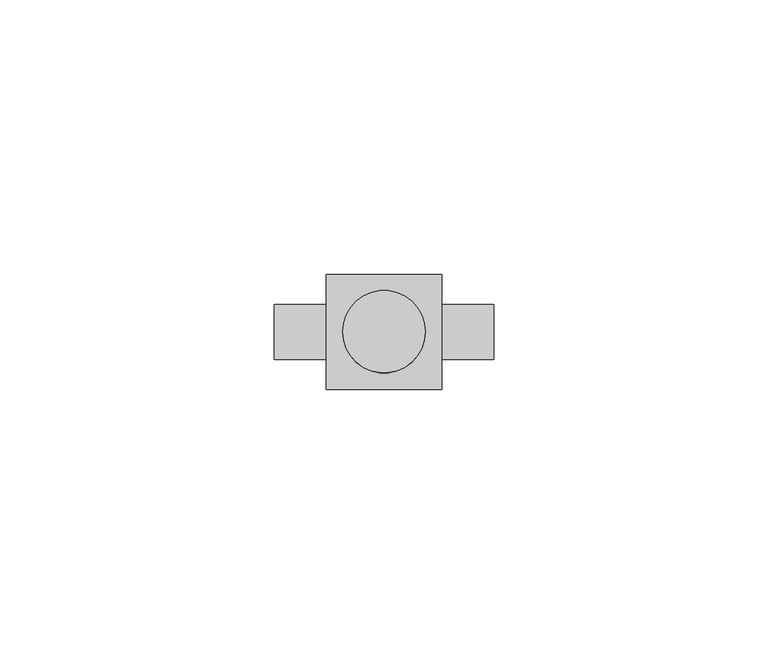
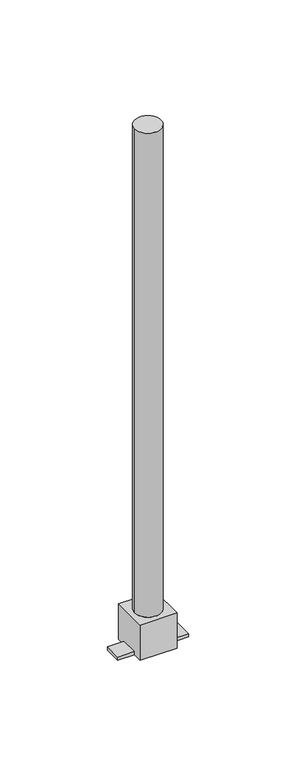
"""IFC4 building model written with IfcOpenShell, lengths in millimetres: pipe fitting geometry, KAN-therm Push kolano mosiężne z rurą Cu15 ze wspornikiem L=300 : KAN-therm Push kolano mosiężne z rurą Cu15 ze wspornikiem L=300."""

from ifc_helpers import new_model, si_unit, frame, origin, origin_with_axes, place, context, project, spatial, circle_curve, source, transform, mapped, element, save
from ifc_brep_helpers import plane_surface, cylinder_surface, advanced_brep


def pipe_fitting_484136c4(model_context):
    return source(origin(), model_context, "Body", "AdvancedBrep", [
        advanced_brep(
        [(10.5, -10.5, 10.5), (10.5, 10.5, 10.5), (-10.5, 10.5, 10.5), (-10.5, -10.5, 10.5), (7.5, 0.0, 10.5), (-7.5, 0.0, 10.5), (10.5, -10.5, -10.5), (-10.5, -10.5, -10.5), (-10.5, -5.0, -10.5), (-20.0, -5.0, -10.5), (-20.0, 5.0, -10.5), (-10.5, 5.0, -10.5), (-10.5, 10.5, -10.5), (10.5, 10.5, -10.5), (10.5, 5.0, -10.5), (20.0, 5.0, -10.5), (20.0, -5.0, -10.5), (10.5, -5.0, -10.5), (-7.5, 0.0, 300.0), (7.5, 0.0, 300.0), (10.5, -5.0, -8.5), (10.5, 5.0, -8.5), (-10.5, 5.0, -8.5), (-10.5, -5.0, -8.5), (20.0, -5.0, -8.5), (20.0, 5.0, -8.5), (-20.0, 5.0, -8.5), (-20.0, -5.0, -8.5)],
        [
            (0, 1),
            (1, 2),
            (2, 3),
            (3, 0),
            (4, 5, circle_curve(frame((0.0, 0.0, 10.5), z_axis=(0.0, 0.0, -1.0), x_axis=(1.0, 0.0, 0.0)), 7.5)),
            (5, 4, circle_curve(frame((0.0, 0.0, 10.5), z_axis=(0.0, 0.0, -1.0), x_axis=(1.0, 0.0, 0.0)), 7.5)),
            (6, 7),
            (7, 8),
            (8, 9),
            (9, 10),
            (10, 11),
            (11, 12),
            (12, 13),
            (13, 14),
            (14, 15),
            (15, 16),
            (16, 17),
            (17, 6),
            (18, 19, circle_curve(frame((0.0, 0.0, 300.0), z_axis=(0.0, 0.0, 1.0), x_axis=(1.0, 0.0, 0.0)), 7.5)),
            (19, 18, circle_curve(frame((0.0, 0.0, 300.0), z_axis=(0.0, 0.0, 1.0), x_axis=(1.0, 0.0, 0.0)), 7.5)),
            (18, 5),
            (4, 19),
            (0, 6),
            (17, 20),
            (20, 21),
            (21, 14),
            (13, 1),
            (12, 2),
            (11, 22),
            (22, 23),
            (23, 8),
            (7, 3),
            (24, 25),
            (25, 21),
            (20, 24),
            (26, 27),
            (27, 23),
            (22, 26),
            (27, 9),
            (16, 24),
            (15, 25),
            (10, 26),
        ],
        [
            plane_surface(frame((10.5, 10.5, 10.5), z_axis=(0.0, 0.0, 1.0), x_axis=(0.0, 1.0, 0.0))),
            plane_surface(frame((10.5, 10.5, -10.5), z_axis=(0.0, 0.0, -1.0), x_axis=(0.0, -1.0, 0.0))),
            plane_surface(frame((7.5, 0.0, 300.0), z_axis=(0.0, 0.0, 1.0), x_axis=(0.0, 1.0, 0.0))),
            cylinder_surface(origin_with_axes(), 7.5),
            plane_surface(frame((10.5, -10.5, 10.5), z_axis=(1.0, 0.0, 0.0), x_axis=(0.0, 0.0, -1.0))),
            plane_surface(frame((10.5, 10.5, 10.5), z_axis=(0.0, 1.0, 0.0), x_axis=(0.0, 0.0, -1.0))),
            plane_surface(frame((-10.5, 10.5, 10.5), z_axis=(-1.0, 0.0, 0.0), x_axis=(0.0, 0.0, -1.0))),
            plane_surface(frame((-10.5, -10.5, 10.5), z_axis=(0.0, -1.0, 0.0), x_axis=(0.0, 0.0, -1.0))),
            plane_surface(frame((2000.0, -5.0, -8.5), z_axis=(0.0, 0.0, 1.0), x_axis=(1.0, 0.0, 0.0))),
            plane_surface(frame((-20.0, -5.0, -8.5), z_axis=(0.0, -1.0, 0.0), x_axis=(0.0, 0.0, -1.0))),
            plane_surface(frame((20.0, -5.0, -8.5), z_axis=(1.0, 0.0, 0.0), x_axis=(0.0, 0.0, -1.0))),
            plane_surface(frame((20.0, 5.0, -8.5), z_axis=(0.0, 1.0, 0.0), x_axis=(0.0, 0.0, -1.0))),
            plane_surface(frame((-20.0, 5.0, -8.5), z_axis=(-1.0, 0.0, 0.0), x_axis=(0.0, 0.0, -1.0))),
        ],
        [
            (0, [[1, 2, 3, 4], [5, 6]]),
            (1, [[7, 8, 9, 10, 11, 12, 13, 14, 15, 16, 17, 18]]),
            (2, [[19, 20]]),
            (3, [[-19, 21, -5, 22]]),
            (3, [[-20, -22, -6, -21]]),
            (4, [[-1, 23, -18, 24, 25, 26, -14, 27]]),
            (5, [[-2, -27, -13, 28]]),
            (6, [[-3, -28, -12, 29, 30, 31, -8, 32]]),
            (7, [[-4, -32, -7, -23]]),
            (8, [[33, 34, -25, 35]]),
            (8, [[36, 37, -30, 38]]),
            (9, [[39, -9, -31, -37]]),
            (9, [[40, -35, -24, -17]]),
            (10, [[-33, -40, -16, 41]]),
            (11, [[-41, -15, -26, -34]]),
            (11, [[42, -38, -29, -11]]),
            (12, [[-36, -42, -10, -39]]),
        ],
    ),
    ])


if __name__ == "__main__":
    model = new_model("IFC4")
    model_context = context("Model", 3, world=origin())
    ifc_project = project(units=[si_unit("LENGTHUNIT", "METRE", prefix="MILLI")], contexts=[model_context])
    site = spatial("IfcSite", under=ifc_project)
    building = spatial("IfcBuilding", under=site)
    placement = place(None, origin())
    pipe_fitting_shape = pipe_fitting_484136c4(model_context)
    element("IfcPipeFitting", 1, ObjectType="KAN-therm Push kolano mosiężne z rurą Cu15 ze wspornikiem L=300 : KAN-therm Push kolano mosiężne z rurą Cu15 ze wspornikiem L=300", at=placement, inside=building, context=model_context, shape_type="MappedRepresentation", body=[
        mapped(pipe_fitting_shape, transform((0.0, 0.0, 0.0), x_axis=(1.0, 0.0, 0.0), y_axis=(0.0, 1.0, 0.0), z_axis=(0.0, 0.0, 1.0))),
    ])
    save(model, "model.ifc")
